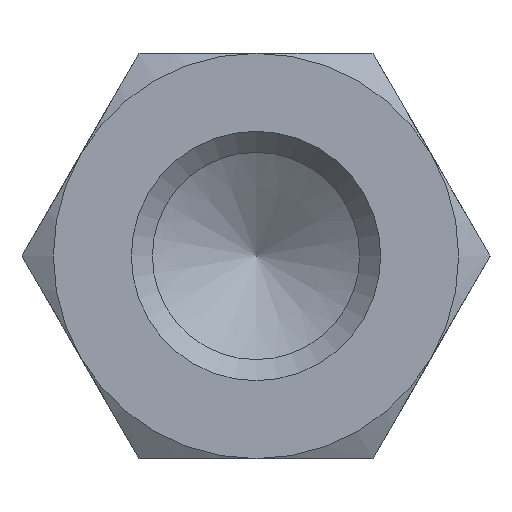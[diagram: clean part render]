
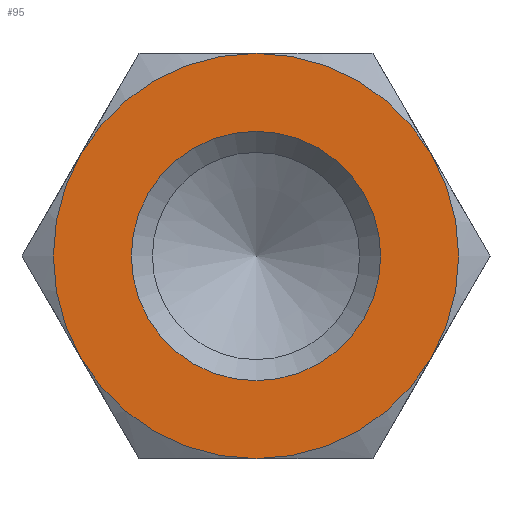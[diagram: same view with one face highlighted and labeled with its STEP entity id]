
A CAD part, left-side view. The second image highlights one B-rep face of the part: STEP entity #95.
In plain terms, the highlighted planar face has unit normal (-1, 0, 0).
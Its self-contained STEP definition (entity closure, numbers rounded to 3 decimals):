
#95 = ADVANCED_FACE( '', ( #147, #148 ), #149, .F. );
#147 = FACE_OUTER_BOUND( '', #206, .T. );
#148 = FACE_BOUND( '', #207, .T. );
#149 = PLANE( '', #208 );
#206 = EDGE_LOOP( '', ( #356, #357, #358, #359, #360, #361 ) );
#207 = EDGE_LOOP( '', ( #362 ) );
#208 = AXIS2_PLACEMENT_3D( '', #363, #364, #365 );
#356 = ORIENTED_EDGE( '', *, *, #440, .F. );
#357 = ORIENTED_EDGE( '', *, *, #425, .F. );
#358 = ORIENTED_EDGE( '', *, *, #441, .F. );
#359 = ORIENTED_EDGE( '', *, *, #437, .F. );
#360 = ORIENTED_EDGE( '', *, *, #442, .F. );
#361 = ORIENTED_EDGE( '', *, *, #443, .F. );
#362 = ORIENTED_EDGE( '', *, *, #439, .T. );
#363 = CARTESIAN_POINT( '', ( -30., 0., 0. ) );
#364 = DIRECTION( '', ( 1., 0., 0. ) );
#365 = DIRECTION( '', ( 0., 0., -1. ) );
#425 = EDGE_CURVE( '', #495, #493, #497, .T. );
#437 = EDGE_CURVE( '', #447, #506, #513, .T. );
#439 = EDGE_CURVE( '', #516, #516, #517, .T. );
#440 = EDGE_CURVE( '', #493, #486, #518, .T. );
#441 = EDGE_CURVE( '', #506, #495, #519, .T. );
#442 = EDGE_CURVE( '', #481, #447, #520, .T. );
#443 = EDGE_CURVE( '', #486, #481, #521, .T. );
#447 = VERTEX_POINT( '', #525 );
#481 = VERTEX_POINT( '', #607 );
#486 = VERTEX_POINT( '', #623 );
#493 = VERTEX_POINT( '', #650 );
#495 = VERTEX_POINT( '', #657 );
#497 = CIRCLE( '', #664, 6.5 );
#506 = VERTEX_POINT( '', #690 );
#513 = CIRCLE( '', #733, 6.5 );
#516 = VERTEX_POINT( '', #736 );
#517 = CIRCLE( '', #737, 4. );
#518 = CIRCLE( '', #738, 6.5 );
#519 = CIRCLE( '', #739, 6.5 );
#520 = CIRCLE( '', #740, 6.5 );
#521 = CIRCLE( '', #741, 6.5 );
#525 = CARTESIAN_POINT( '', ( -30., -5.629, 3.25 ) );
#607 = CARTESIAN_POINT( '', ( -30., 0., 6.5 ) );
#623 = CARTESIAN_POINT( '', ( -30., 5.629, 3.25 ) );
#650 = CARTESIAN_POINT( '', ( -30., 5.629, -3.25 ) );
#657 = CARTESIAN_POINT( '', ( -30., 0., -6.5 ) );
#664 = AXIS2_PLACEMENT_3D( '', #776, #777, #778 );
#690 = CARTESIAN_POINT( '', ( -30., -5.629, -3.25 ) );
#733 = AXIS2_PLACEMENT_3D( '', #781, #782, #783 );
#736 = CARTESIAN_POINT( '', ( -30., 0., -4. ) );
#737 = AXIS2_PLACEMENT_3D( '', #787, #788, #789 );
#738 = AXIS2_PLACEMENT_3D( '', #790, #791, #792 );
#739 = AXIS2_PLACEMENT_3D( '', #793, #794, #795 );
#740 = AXIS2_PLACEMENT_3D( '', #796, #797, #798 );
#741 = AXIS2_PLACEMENT_3D( '', #799, #800, #801 );
#776 = CARTESIAN_POINT( '', ( -30., 0., 0. ) );
#777 = DIRECTION( '', ( 1., 0., 0. ) );
#778 = DIRECTION( '', ( 0., 0., -1. ) );
#781 = CARTESIAN_POINT( '', ( -30., 0., 0. ) );
#782 = DIRECTION( '', ( 1., 0., 0. ) );
#783 = DIRECTION( '', ( 0., 0., -1. ) );
#787 = CARTESIAN_POINT( '', ( -30., 0., 0. ) );
#788 = DIRECTION( '', ( 1., 0., 0. ) );
#789 = DIRECTION( '', ( 0., 0., -1. ) );
#790 = CARTESIAN_POINT( '', ( -30., 0., 0. ) );
#791 = DIRECTION( '', ( 1., 0., 0. ) );
#792 = DIRECTION( '', ( 0., 0., -1. ) );
#793 = CARTESIAN_POINT( '', ( -30., 0., 0. ) );
#794 = DIRECTION( '', ( 1., 0., 0. ) );
#795 = DIRECTION( '', ( 0., 0., -1. ) );
#796 = CARTESIAN_POINT( '', ( -30., 0., 0. ) );
#797 = DIRECTION( '', ( 1., 0., 0. ) );
#798 = DIRECTION( '', ( 0., 0., -1. ) );
#799 = CARTESIAN_POINT( '', ( -30., 0., 0. ) );
#800 = DIRECTION( '', ( 1., 0., 0. ) );
#801 = DIRECTION( '', ( 0., 0., -1. ) );
